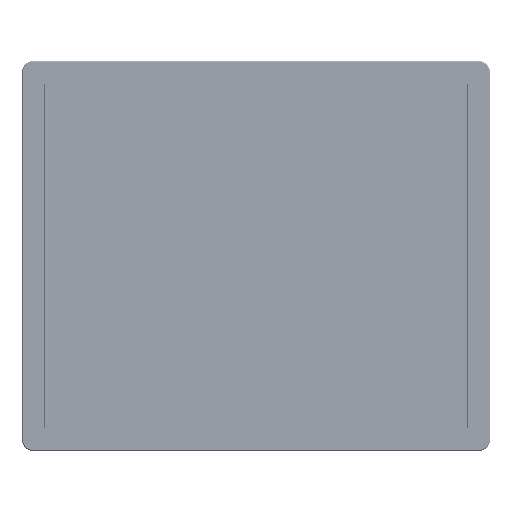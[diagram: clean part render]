
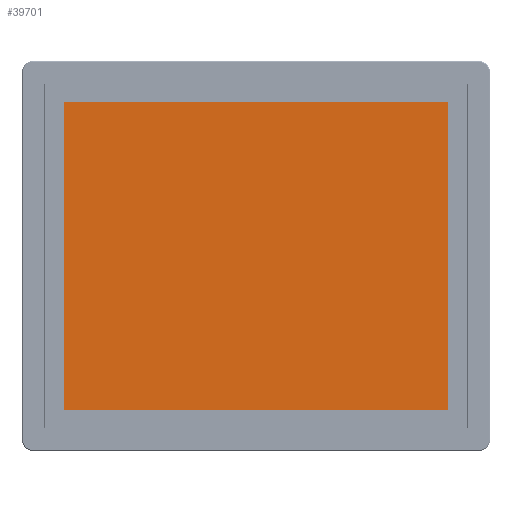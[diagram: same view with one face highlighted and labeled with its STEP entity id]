
A CAD part, top view. The second image highlights one B-rep face of the part: STEP entity #39701.
In plain terms, the highlighted planar face has unit normal (0, 0, 1).
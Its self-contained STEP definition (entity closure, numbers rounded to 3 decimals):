
#16821=FACE_OUTER_BOUND('',#66469,.T.);
#39701=ADVANCED_FACE('',(#16821),#51325,.T.);
#51325=PLANE('',#272112);
#66469=EDGE_LOOP('',(#112116,#112117,#112118,#112119));
#112116=ORIENTED_EDGE('',*,*,#200507,.T.);
#112117=ORIENTED_EDGE('',*,*,#200517,.T.);
#112118=ORIENTED_EDGE('',*,*,#200514,.T.);
#112119=ORIENTED_EDGE('',*,*,#200511,.T.);
#171583=VERTEX_POINT('',#470677);
#171584=VERTEX_POINT('',#470678);
#171587=VERTEX_POINT('',#470686);
#171589=VERTEX_POINT('',#470692);
#200507=EDGE_CURVE('',#171583,#171584,#230205,.T.);
#200511=EDGE_CURVE('',#171587,#171583,#230209,.T.);
#200514=EDGE_CURVE('',#171589,#171587,#230212,.T.);
#200517=EDGE_CURVE('',#171584,#171589,#230215,.T.);
#230205=LINE('',#470676,#249003);
#230209=LINE('',#470685,#249007);
#230212=LINE('',#470691,#249010);
#230215=LINE('',#470697,#249013);
#249003=VECTOR('',#307537,1.);
#249007=VECTOR('',#307543,1.);
#249010=VECTOR('',#307548,1.);
#249013=VECTOR('',#307553,1.);
#272112=AXIS2_PLACEMENT_3D('',#470701,#307559,#307560);
#307537=DIRECTION('',(0.,-1.,0.));
#307543=DIRECTION('',(-1.,0.,0.));
#307548=DIRECTION('',(0.,1.,0.));
#307553=DIRECTION('',(1.,0.,0.));
#307559=DIRECTION('',(0.,0.,1.));
#307560=DIRECTION('',(1.,0.,0.));
#470676=CARTESIAN_POINT('',(-208.353,148.698,11.25));
#470677=CARTESIAN_POINT('',(-208.353,148.698,11.25));
#470678=CARTESIAN_POINT('',(-208.353,-123.642,11.25));
#470685=CARTESIAN_POINT('',(-208.353,148.698,11.25));
#470686=CARTESIAN_POINT('',(131.567,148.698,11.25));
#470691=CARTESIAN_POINT('',(131.567,148.698,11.25));
#470692=CARTESIAN_POINT('',(131.567,-123.642,11.25));
#470697=CARTESIAN_POINT('',(-208.353,-123.642,11.25));
#470701=CARTESIAN_POINT('',(-38.393,168.028,11.25));
